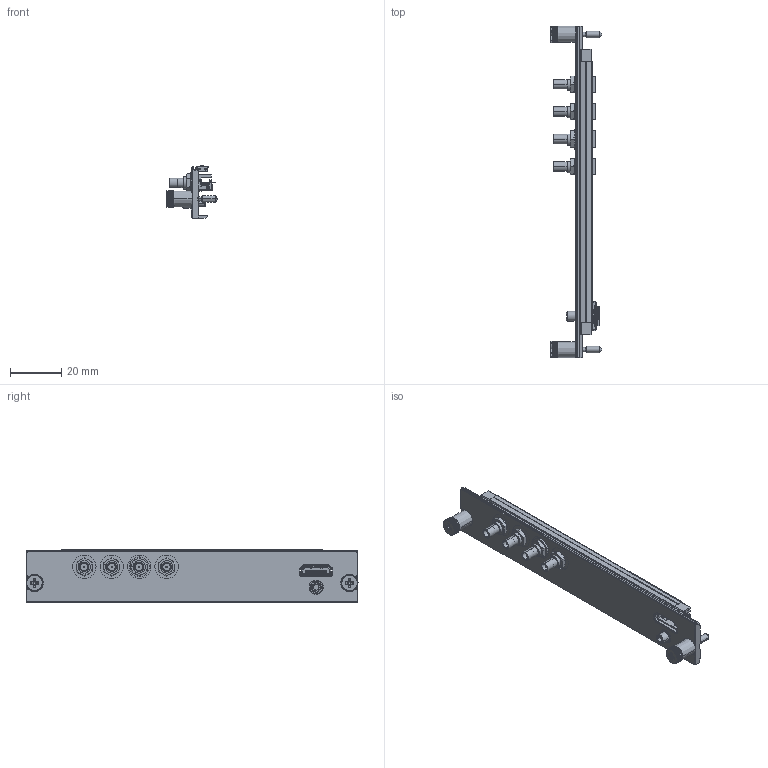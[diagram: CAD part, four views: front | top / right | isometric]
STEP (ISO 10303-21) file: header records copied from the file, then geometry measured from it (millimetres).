
FILE_DESCRIPTION((''),'2;1');
FILE_NAME('CU_PXIE-5172_4CH','2017-04-10T',('jjorden'),(''),'CREO PARAMETRIC BY PTC INC, 2015380','CREO PARAMETRIC BY PTC INC, 2015380','');
FILE_SCHEMA(('CONFIG_CONTROL_DESIGN'));
Products named in the file (1): CU_PXIE-5172_4CH
Bounding box: 20 x 129.02 x 20.31 mm (x, y, z)
Volume: 8779.8 mm3; surface area: 13755.6 mm2
Topology: 6 solids, 6 shells, 2278 faces, 6355 edges, 4116 vertices
Faces by surface type: plane 1535, cylinder 582, bspline 59, cone 44, extrusion 34, torus 24
Entity records: 83814 total; most frequent: CARTESIAN_POINT 25939, ORIENTED_EDGE 12698, DIRECTION 11078, EDGE_CURVE 6349, VECTOR 4382, LINE 4348, VERTEX_POINT 4116, AXIS2_PLACEMENT_3D 3348
